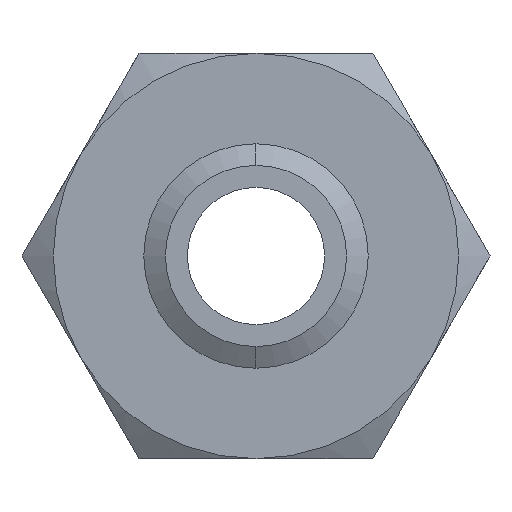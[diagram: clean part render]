
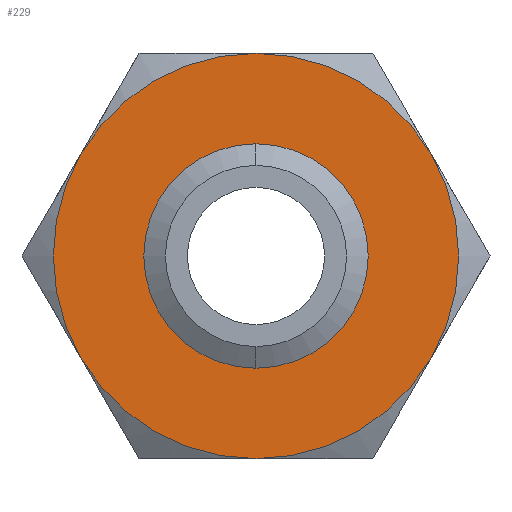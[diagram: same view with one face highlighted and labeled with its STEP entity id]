
A CAD part, front view. The second image highlights one B-rep face of the part: STEP entity #229.
In plain terms, the highlighted planar face has unit normal (0, -1, 0).
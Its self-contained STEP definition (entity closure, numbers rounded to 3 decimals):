
#172 = VERTEX_POINT ( 'NONE', #993 ) ;
#186 = VERTEX_POINT ( 'NONE', #1017 ) ;
#187 = VERTEX_POINT ( 'NONE', #1016 ) ;
#188 = ORIENTED_EDGE ( 'NONE', *, *, #276, .F. ) ;
#195 = VERTEX_POINT ( 'NONE', #1010 ) ;
#208 = ORIENTED_EDGE ( 'NONE', *, *, #217, .F. ) ;
#209 = ORIENTED_EDGE ( 'NONE', *, *, #239, .F. ) ;
#216 = EDGE_CURVE ( 'NONE', #226, #187, #1103, .T. ) ;
#217 = EDGE_CURVE ( 'NONE', #279, #226, #1098, .T. ) ;
#226 = VERTEX_POINT ( 'NONE', #1083 ) ;
#229 = ADVANCED_FACE ( 'NONE', ( #1075, #1074 ), #1078, .F. ) ;
#230 = ORIENTED_EDGE ( 'NONE', *, *, #216, .F. ) ;
#239 = EDGE_CURVE ( 'NONE', #195, #172, #1124, .T. ) ;
#242 = EDGE_LOOP ( 'NONE', ( #230, #208, #281, #188, #209, #336 ) ) ;
#276 = EDGE_CURVE ( 'NONE', #172, #186, #1215, .T. ) ;
#279 = VERTEX_POINT ( 'NONE', #1206 ) ;
#281 = ORIENTED_EDGE ( 'NONE', *, *, #282, .F. ) ;
#282 = EDGE_CURVE ( 'NONE', #186, #279, #1205, .T. ) ;
#315 = ORIENTED_EDGE ( 'NONE', *, *, #419, .F. ) ;
#316 = ORIENTED_EDGE ( 'NONE', *, *, #340, .F. ) ;
#319 = EDGE_LOOP ( 'NONE', ( #315, #316 ) ) ;
#336 = ORIENTED_EDGE ( 'NONE', *, *, #339, .F. ) ;
#339 = EDGE_CURVE ( 'NONE', #187, #195, #1343, .T. ) ;
#340 = EDGE_CURVE ( 'NONE', #420, #421, #1334, .T. ) ;
#419 = EDGE_CURVE ( 'NONE', #421, #420, #1513, .T. ) ;
#420 = VERTEX_POINT ( 'NONE', #1508 ) ;
#421 = VERTEX_POINT ( 'NONE', #1507 ) ;
#993 = CARTESIAN_POINT ( 'NONE',  ( 0., 0., -32.5 ) ) ;
#1010 = CARTESIAN_POINT ( 'NONE',  ( 28.146, 0., -16.25 ) ) ;
#1016 = CARTESIAN_POINT ( 'NONE',  ( 28.146, 0., 16.25 ) ) ;
#1017 = CARTESIAN_POINT ( 'NONE',  ( -28.146, 0., -16.25 ) ) ;
#1072 = CARTESIAN_POINT ( 'NONE',  ( 18.764, 0., -32.5 ) ) ;
#1073 = AXIS2_PLACEMENT_3D ( 'NONE', #1072, #1134, #1133 ) ;
#1074 = FACE_BOUND ( 'NONE', #319, .T. ) ;
#1075 = FACE_OUTER_BOUND ( 'NONE', #242, .T. ) ;
#1078 = PLANE ( 'NONE',  #1073 ) ;
#1083 = CARTESIAN_POINT ( 'NONE',  ( 0., 0., 32.5 ) ) ;
#1094 = DIRECTION ( 'NONE',  ( 0., 0., 1. ) ) ;
#1095 = DIRECTION ( 'NONE',  ( 0., 1., 0. ) ) ;
#1096 = CARTESIAN_POINT ( 'NONE',  ( 0., 0., 0. ) ) ;
#1097 = AXIS2_PLACEMENT_3D ( 'NONE', #1096, #1095, #1094 ) ;
#1098 = CIRCLE ( 'NONE', #1097, 32.5 ) ;
#1099 = DIRECTION ( 'NONE',  ( 0., 0., 1. ) ) ;
#1100 = DIRECTION ( 'NONE',  ( 0., 1., 0. ) ) ;
#1101 = CARTESIAN_POINT ( 'NONE',  ( 0., 0., 0. ) ) ;
#1102 = AXIS2_PLACEMENT_3D ( 'NONE', #1101, #1100, #1099 ) ;
#1103 = CIRCLE ( 'NONE', #1102, 32.5 ) ;
#1120 = DIRECTION ( 'NONE',  ( 0., 0., 1. ) ) ;
#1121 = DIRECTION ( 'NONE',  ( 0., 1., 0. ) ) ;
#1122 = CARTESIAN_POINT ( 'NONE',  ( 0., 0., 0. ) ) ;
#1123 = AXIS2_PLACEMENT_3D ( 'NONE', #1122, #1121, #1120 ) ;
#1124 = CIRCLE ( 'NONE', #1123, 32.5 ) ;
#1133 = DIRECTION ( 'NONE',  ( 0., 0., 1. ) ) ;
#1134 = DIRECTION ( 'NONE',  ( 0., 1., 0. ) ) ;
#1201 = DIRECTION ( 'NONE',  ( 0., 0., 1. ) ) ;
#1202 = DIRECTION ( 'NONE',  ( 0., 1., 0. ) ) ;
#1203 = CARTESIAN_POINT ( 'NONE',  ( 0., 0., 0. ) ) ;
#1204 = AXIS2_PLACEMENT_3D ( 'NONE', #1203, #1202, #1201 ) ;
#1205 = CIRCLE ( 'NONE', #1204, 32.5 ) ;
#1206 = CARTESIAN_POINT ( 'NONE',  ( -28.146, 0., 16.25 ) ) ;
#1211 = DIRECTION ( 'NONE',  ( 0., 0., 1. ) ) ;
#1212 = DIRECTION ( 'NONE',  ( 0., 1., 0. ) ) ;
#1213 = CARTESIAN_POINT ( 'NONE',  ( 0., 0., 0. ) ) ;
#1214 = AXIS2_PLACEMENT_3D ( 'NONE', #1213, #1212, #1211 ) ;
#1215 = CIRCLE ( 'NONE', #1214, 32.5 ) ;
#1330 = DIRECTION ( 'NONE',  ( 0., 0., -1. ) ) ;
#1331 = DIRECTION ( 'NONE',  ( 0., -1., 0. ) ) ;
#1332 = CARTESIAN_POINT ( 'NONE',  ( 0., 0., 0. ) ) ;
#1333 = AXIS2_PLACEMENT_3D ( 'NONE', #1332, #1331, #1330 ) ;
#1334 = CIRCLE ( 'NONE', #1333, 14.536 ) ;
#1335 = DIRECTION ( 'NONE',  ( 0., 0., 1. ) ) ;
#1336 = DIRECTION ( 'NONE',  ( 0., 1., 0. ) ) ;
#1337 = CARTESIAN_POINT ( 'NONE',  ( 0., 0., 0. ) ) ;
#1338 = AXIS2_PLACEMENT_3D ( 'NONE', #1337, #1336, #1335 ) ;
#1343 = CIRCLE ( 'NONE', #1338, 32.5 ) ;
#1507 = CARTESIAN_POINT ( 'NONE',  ( 0., 0., -14.536 ) ) ;
#1508 = CARTESIAN_POINT ( 'NONE',  ( 0., 0., 14.536 ) ) ;
#1509 = DIRECTION ( 'NONE',  ( 0., 0., -1. ) ) ;
#1510 = DIRECTION ( 'NONE',  ( 0., -1., 0. ) ) ;
#1511 = CARTESIAN_POINT ( 'NONE',  ( 0., 0., 0. ) ) ;
#1512 = AXIS2_PLACEMENT_3D ( 'NONE', #1511, #1510, #1509 ) ;
#1513 = CIRCLE ( 'NONE', #1512, 14.536 ) ;
